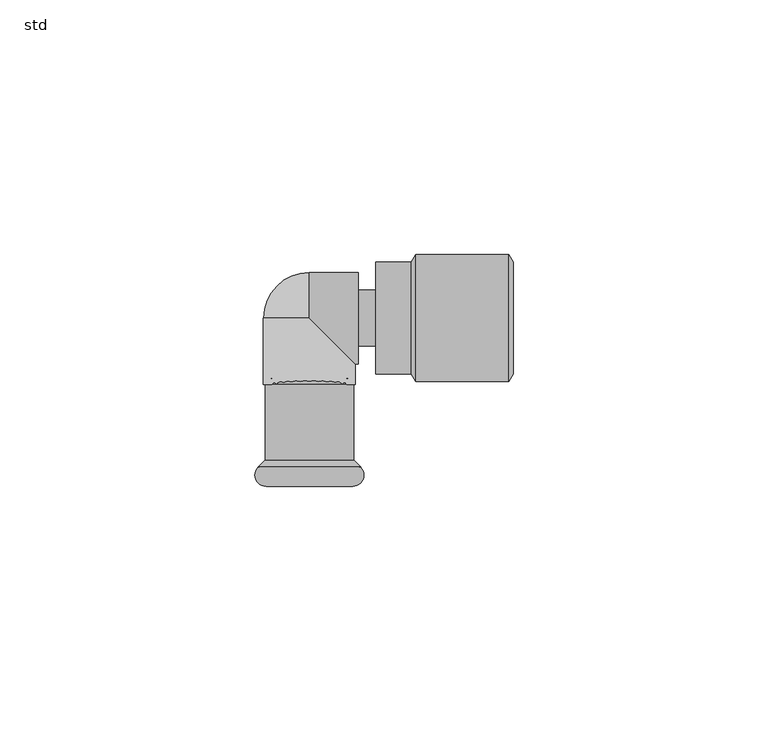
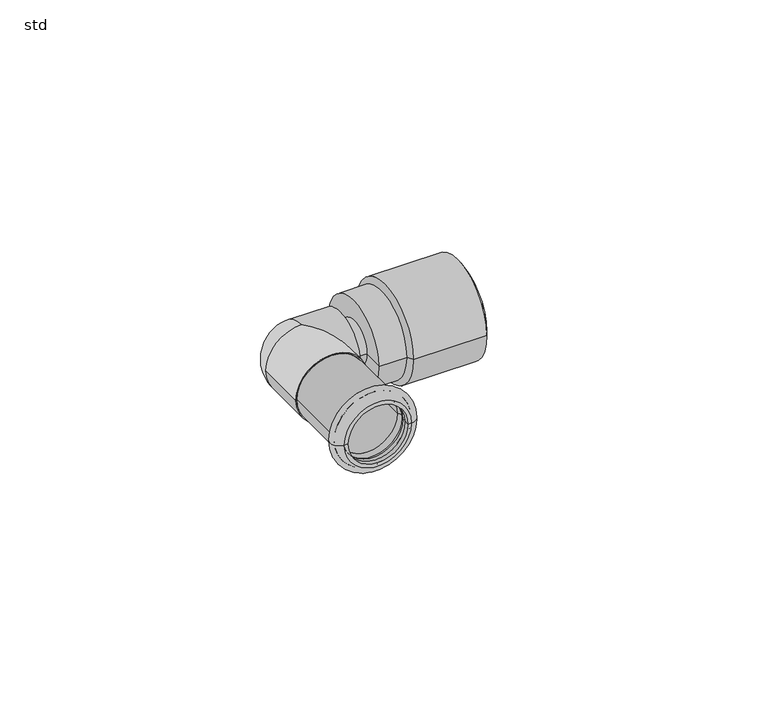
"""IFC4 building model written with IfcOpenShell, lengths in millimetres: pipe fitting geometry, NLRS_53_PIF_UN_mapress koper overgangsknie fixadapter_Geberit : std."""

from ifc_helpers import new_model, si_unit, point, frame, origin, place, context, project, spatial, polyline, circle_curve, ellipse_curve, trimmed, source, transform, mapped, element, save
from ifc_brep_helpers import plane_surface, cylinder_surface, revolved_surface, advanced_brep


def std_c562ad17(model_context):
    return source(origin(), model_context, "Body", "AdvancedBrep", [
        advanced_brep(
        [(9.5, -30.8, 0.0), (-9.5, -30.8, 0.0), (-7.5, -30.8, 0.0), (7.5, -30.8, 0.0)],
        [
            (0, 1, circle_curve(frame((0.0, -30.8, 0.0), z_axis=(0.0, 1.0, 0.0), x_axis=(-1.0000000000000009, 0.0, 0.0)), 9.5)),
            (1, 2, circle_curve(frame((-8.5, -30.8, 0.0), z_axis=(0.0, 0.0, -1.0000000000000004), x_axis=(1.0000000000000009, 0.0, 0.0)), 1.0)),
            (2, 3, circle_curve(frame((0.0, -30.8, 0.0), z_axis=(0.0, -1.0, 0.0), x_axis=(-1.0000000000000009, 0.0, 0.0)), 7.5)),
            (3, 0, circle_curve(frame((8.5, -30.8, 0.0), z_axis=(0.0, 0.0, -1.0000000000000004), x_axis=(-1.0000000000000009, 0.0, 0.0)), 1.0)),
            (1, 0, circle_curve(frame((0.0, -30.8, 0.0), z_axis=(0.0, 1.0, 0.0), x_axis=(1.0000000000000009, 0.0, 0.0)), 9.5)),
            (3, 2, circle_curve(frame((0.0, -30.8, 0.0), z_axis=(0.0, -1.0, 0.0), x_axis=(1.0000000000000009, 0.0, 0.0)), 7.5)),
            (2, 1, circle_curve(frame((-8.5, -30.8, 0.0), z_axis=(0.0, 0.0, -1.0000000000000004), x_axis=(1.0000000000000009, 0.0, 0.0)), 1.0)),
            (0, 3, circle_curve(frame((8.5, -30.8, 0.0), z_axis=(0.0, 0.0, -1.0000000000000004), x_axis=(-1.0000000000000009, 0.0, 0.0)), 1.0)),
        ],
        [
            revolved_surface(trimmed(ellipse_curve(frame((-8.5, -30.8, 0.0), z_axis=(0.0, 0.0, 1.0000000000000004), x_axis=(1.0000000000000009, 0.0, 0.0)), 1.0, 1.0), [point((-7.5, -30.8, 0.0))], [point((-9.5, -30.8, 0.0))], True, "CARTESIAN"), (0.0, -33.0, 0.0), (0.0, -1.0000000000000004, 0.0)),
            revolved_surface(trimmed(ellipse_curve(frame((8.5, -30.8, 0.0), z_axis=(0.0, 0.0, -1.0000000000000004), x_axis=(-1.0000000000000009, 0.0, 0.0)), 1.0, 1.0), [point((7.5, -30.8, 0.0))], [point((9.5, -30.8, 0.0))], True, "CARTESIAN"), (0.0, -33.0, 0.0), (0.0, -1.0000000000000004, 0.0)),
            revolved_surface(trimmed(ellipse_curve(frame((-8.5, -30.8, 0.0), z_axis=(0.0, 0.0, 1.0000000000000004), x_axis=(1.0000000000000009, 0.0, 0.0)), 1.0, 1.0), [point((-9.5, -30.8, 0.0))], [point((-7.5, -30.8, 0.0))], True, "CARTESIAN"), (0.0, -33.0, 0.0), (0.0, -1.0000000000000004, 0.0)),
            revolved_surface(trimmed(ellipse_curve(frame((8.5, -30.8, 0.0), z_axis=(0.0, 0.0, -1.0000000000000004), x_axis=(-1.0000000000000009, 0.0, 0.0)), 1.0, 1.0), [point((9.5, -30.8, 0.0))], [point((7.5, -30.8, 0.0))], True, "CARTESIAN"), (0.0, -33.0, 0.0), (0.0, -1.0000000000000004, 0.0)),
        ],
        [
            (0, [[1, 2, 3, 4]]),
            (1, [[5, -4, 6, -2]]),
            (2, [[-3, 7, -1, 8]]),
            (3, [[-6, -8, -5, -7]]),
        ],
    ),
        advanced_brep(
        [(-8.5, -31.8, 0.0), (8.5, -31.8, 0.0), (9.2071068, -30.0928932, 0.0), (-9.2071068, -30.0928932, 0.0), (-10.0556349, -29.2443651, 0.0), (10.0556349, -29.2443651, 0.0), (8.5, -33.0, 0.0), (-8.5, -33.0, 0.0), (-7.5, -31.8, 0.0), (7.5, -31.8, 0.0), (-7.5, -33.0, 0.0), (7.5, -33.0, 0.0)],
        [
            (0, 1, circle_curve(frame((0.0, -31.8, 0.0), z_axis=(0.0, -1.0, 0.0), x_axis=(1.0000000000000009, 0.0, 0.0)), 8.5)),
            (1, 2, circle_curve(frame((8.5, -30.8, 0.0), z_axis=(0.0, 0.0, 1.0000000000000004), x_axis=(0.0, -1.0000000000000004, 0.0)), 1.0)),
            (2, 3, circle_curve(frame((0.0, -30.0928932, 0.0), z_axis=(0.0, 1.0, 0.0), x_axis=(1.0000000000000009, 0.0, 0.0)), 9.2071068)),
            (3, 0, circle_curve(frame((-8.5, -30.8, 0.0), z_axis=(0.0, 0.0, 1.0000000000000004), x_axis=(0.0, -1.0000000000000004, 0.0)), 1.0)),
            (1, 0, circle_curve(frame((0.0, -31.8, 0.0), z_axis=(0.0, -1.0, 0.0), x_axis=(1.0000000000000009, 0.0, 0.0)), 8.5)),
            (3, 2, circle_curve(frame((0.0, -30.0928932, 0.0), z_axis=(0.0, 1.0, 0.0), x_axis=(1.0000000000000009, 0.0, 0.0)), 9.2071068)),
            (4, 5, circle_curve(frame((0.0, -29.2443651, 0.0), z_axis=(0.0, -1.0, 0.0), x_axis=(1.0000000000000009, 0.0, 0.0)), 10.0556349)),
            (5, 6, circle_curve(frame((8.5, -30.8, 0.0), z_axis=(0.0, 0.0, -1.0000000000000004), x_axis=(0.0, -1.0000000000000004, 0.0)), 2.2)),
            (6, 7, circle_curve(frame((0.0, -33.0, 0.0), z_axis=(0.0, 1.0, 0.0), x_axis=(1.0000000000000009, 0.0, 0.0)), 8.5)),
            (7, 4, circle_curve(frame((-8.5, -30.8, 0.0), z_axis=(0.0, 0.0, -1.0000000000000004), x_axis=(0.0, -1.0000000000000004, 0.0)), 2.2)),
            (5, 4, circle_curve(frame((0.0, -29.2443651, 0.0), z_axis=(0.0, -1.0, 0.0), x_axis=(1.0000000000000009, 0.0, 0.0)), 10.0556349)),
            (7, 6, circle_curve(frame((0.0, -33.0, 0.0), z_axis=(0.0, 1.0, 0.0), x_axis=(1.0000000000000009, 0.0, 0.0)), 8.5)),
            (2, 5),
            (4, 3),
            (8, 9, circle_curve(frame((0.0, -31.8, 0.0), z_axis=(0.0, -1.0, 0.0), x_axis=(1.0000000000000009, 0.0, 0.0)), 7.5)),
            (9, 1),
            (0, 8),
            (9, 8, circle_curve(frame((0.0, -31.8, 0.0), z_axis=(0.0, -1.0, 0.0), x_axis=(1.0000000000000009, 0.0, 0.0)), 7.5)),
            (10, 11, circle_curve(frame((0.0, -33.0, 0.0), z_axis=(0.0, -1.0, 0.0), x_axis=(1.0000000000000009, 0.0, 0.0)), 7.5)),
            (11, 9),
            (8, 10),
            (11, 10, circle_curve(frame((0.0, -33.0, 0.0), z_axis=(0.0, -1.0, 0.0), x_axis=(1.0000000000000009, 0.0, 0.0)), 7.5)),
            (6, 11),
            (10, 7),
        ],
        [
            revolved_surface(trimmed(ellipse_curve(frame((8.5, -30.8, 0.0), z_axis=(0.0, 0.0, -1.0000000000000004), x_axis=(0.0, -1.0000000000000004, 0.0)), 1.0, 1.0), [point((9.2071068, -30.0928932, 0.0))], [point((8.5, -31.8, 0.0))], True, "CARTESIAN"), (0.0, -2033.0, 0.0), (0.0, 1.0000000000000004, 0.0)),
            revolved_surface(trimmed(ellipse_curve(frame((8.5, -30.8, 0.0), z_axis=(0.0, 0.0, 1.0000000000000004), x_axis=(0.0, -1.0000000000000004, 0.0)), 2.2, 2.2), [point((8.5, -33.0, 0.0))], [point((10.0556349, -29.2443651, 0.0))], True, "CARTESIAN"), (0.0, -2033.0, 0.0), (0.0, 1.0000000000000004, 0.0)),
            revolved_surface(polyline([(10.0556349, -29.2443651, 0.0), (9.2071068, -30.0928932, 0.0)]), (0.0, -2033.0, 0.0), (0.0, 1.0000000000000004, 0.0)),
            plane_surface(frame((0.0, -31.8, 0.0), z_axis=(0.0, 1.0, 0.0), x_axis=(1.0, 0.0, 0.0))),
            revolved_surface(polyline([(7.500000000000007, -31.799999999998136, 0.0), (7.500000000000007, -32.99999999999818, 0.0)]), (0.0, -2033.0, 0.0), (0.0, 1.0000000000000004, 0.0)),
            plane_surface(frame((0.0, -33.0, 0.0), z_axis=(0.0, -1.0, 0.0), x_axis=(1.0, 0.0, 0.0))),
        ],
        [
            (0, [[1, 2, 3, 4]]),
            (0, [[5, -4, 6, -2]]),
            (1, [[7, 8, 9, 10]]),
            (1, [[11, -10, 12, -8]]),
            (2, [[-3, 13, -7, 14]]),
            (2, [[-6, -14, -11, -13]]),
            (3, [[15, 16, -1, 17]]),
            (3, [[18, -17, -5, -16]]),
            (4, [[19, 20, -15, 21]]),
            (4, [[22, -21, -18, -20]]),
            (5, [[-9, 23, -19, 24]]),
            (5, [[-12, -24, -22, -23]]),
        ],
    ),
        advanced_brep(
        [(-8.7, -13.0, 0.0), (8.7, -13.0, 0.0), (8.7, -27.8887302, 0.0), (-8.7, -27.8887302, 0.0), (-7.5, -11.8, 0.0), (7.5, -11.8, 0.0), (-7.5, -28.3857864, 0.0), (7.5, -28.3857864, 0.0), (-9.2071068, -30.0928932, 0.0), (9.2071068, -30.0928932, 0.0), (-10.0556349, -29.2443651, 0.0), (10.0556349, -29.2443651, 0.0)],
        [
            (0, 1, circle_curve(frame((0.0, -13.0, 0.0), z_axis=(0.0, -1.0, 0.0), x_axis=(1.0000000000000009, 0.0, 0.0)), 8.7)),
            (1, 2),
            (2, 3, circle_curve(frame((0.0, -27.8887302, 0.0), z_axis=(0.0, 1.0, 0.0), x_axis=(1.0000000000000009, 0.0, 0.0)), 8.7)),
            (3, 0),
            (1, 0, circle_curve(frame((0.0, -13.0, 0.0), z_axis=(0.0, -1.0, 0.0), x_axis=(1.0000000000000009, 0.0, 0.0)), 8.7)),
            (3, 2, circle_curve(frame((0.0, -27.8887302, 0.0), z_axis=(0.0, 1.0, 0.0), x_axis=(1.0000000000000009, 0.0, 0.0)), 8.7)),
            (4, 5, circle_curve(frame((0.0, -11.8, 0.0), z_axis=(0.0, -1.0, 0.0), x_axis=(1.0000000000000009, 0.0, 0.0)), 7.5)),
            (5, 1, circle_curve(frame((7.5, -13.0, 0.0), z_axis=(0.0, 0.0, -1.0000000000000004), x_axis=(0.0, -1.0000000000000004, 0.0)), 1.2)),
            (0, 4, circle_curve(frame((-7.5, -13.0, 0.0), z_axis=(0.0, 0.0, -1.0000000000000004), x_axis=(0.0, -1.0000000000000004, 0.0)), 1.2)),
            (5, 4, circle_curve(frame((0.0, -11.8, 0.0), z_axis=(0.0, -1.0, 0.0), x_axis=(1.0000000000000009, 0.0, 0.0)), 7.5)),
            (6, 7, circle_curve(frame((0.0, -28.3857864, 0.0), z_axis=(0.0, -1.0, 0.0), x_axis=(1.0000000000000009, 0.0, 0.0)), 7.5)),
            (7, 5),
            (4, 6),
            (7, 6, circle_curve(frame((0.0, -28.3857864, 0.0), z_axis=(0.0, -1.0, 0.0), x_axis=(1.0000000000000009, 0.0, 0.0)), 7.5)),
            (8, 9, circle_curve(frame((0.0, -30.0928932, 0.0), z_axis=(0.0, -1.0, 0.0), x_axis=(1.0000000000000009, 0.0, 0.0)), 9.2071068)),
            (9, 7),
            (6, 8),
            (9, 8, circle_curve(frame((0.0, -30.0928932, 0.0), z_axis=(0.0, -1.0, 0.0), x_axis=(1.0000000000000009, 0.0, 0.0)), 9.2071068)),
            (10, 11, circle_curve(frame((0.0, -29.2443651, 0.0), z_axis=(0.0, -1.0, 0.0), x_axis=(1.0000000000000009, 0.0, 0.0)), 10.0556349)),
            (11, 9),
            (8, 10),
            (11, 10, circle_curve(frame((0.0, -29.2443651, 0.0), z_axis=(0.0, -1.0, 0.0), x_axis=(1.0000000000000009, 0.0, 0.0)), 10.0556349)),
            (2, 11),
            (10, 3),
        ],
        [
            cylinder_surface(frame((0.0, -33.0, 0.0), z_axis=(0.0, 1.0000000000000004, 0.0), x_axis=(1.0000000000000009, 0.0, 0.0)), 8.7),
            revolved_surface(trimmed(ellipse_curve(frame((7.5, -13.0, 0.0), z_axis=(0.0, 0.0, 1.0000000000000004), x_axis=(0.0, -1.0000000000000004, 0.0)), 1.2, 1.2), [point((8.7, -13.0, 0.0))], [point((7.5, -11.8, 0.0))], True, "CARTESIAN"), (0.0, -33.0, 0.0), (0.0, 1.0000000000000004, 0.0)),
            revolved_surface(polyline([(7.500000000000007, -11.79999999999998, 0.0), (7.500000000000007, -28.385786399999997, 0.0)]), (0.0, -33.0, 0.0), (0.0, 1.0000000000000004, 0.0)),
            revolved_surface(polyline([(7.5, -28.3857864, 0.0), (9.2071068, -30.0928932, 0.0)]), (0.0, -33.0, 0.0), (0.0, 1.0000000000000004, 0.0)),
            revolved_surface(polyline([(9.2071068, -30.0928932, 0.0), (10.0556349, -29.2443651, 0.0)]), (0.0, -33.0, 0.0), (0.0, 1.0000000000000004, 0.0)),
            revolved_surface(polyline([(10.0556349, -29.2443651, 0.0), (8.7, -27.8887302, 0.0)]), (0.0, -33.0, 0.0), (0.0, 1.0000000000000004, 0.0)),
        ],
        [
            (0, [[1, 2, 3, 4]]),
            (0, [[5, -4, 6, -2]]),
            (1, [[7, 8, -1, 9]]),
            (1, [[10, -9, -5, -8]]),
            (2, [[11, 12, -7, 13]]),
            (2, [[14, -13, -10, -12]]),
            (3, [[15, 16, -11, 17]]),
            (3, [[18, -17, -14, -16]]),
            (4, [[19, 20, -15, 21]]),
            (4, [[22, -21, -18, -20]]),
            (5, [[-3, 23, -19, 24]]),
            (5, [[-6, -24, -22, -23]]),
        ],
    ),
        advanced_brep(
        [(9.6, 0.0, 0.0), (9.6, 5.5, 0.0), (9.6, -5.5, 0.0), (16.4, -5.5, 0.0), (16.4, 5.5, 0.0), (16.4, 0.0, 0.0)],
        [
            (0, 1),
            (1, 2, circle_curve(frame((9.6, 0.0, 0.0), z_axis=(-1.0, 0.0, 0.0), x_axis=(0.0, 1.0, 0.0)), 5.5)),
            (2, 0),
            (2, 1, circle_curve(frame((9.6, 0.0, 0.0), z_axis=(-1.0, 0.0, 0.0), x_axis=(0.0, 1.0, 0.0)), 5.5)),
            (3, 4, circle_curve(frame((16.4, 0.0, 0.0), z_axis=(1.0, 0.0, 0.0), x_axis=(0.0, 1.0, 0.0)), 5.5)),
            (4, 5),
            (5, 3),
            (4, 3, circle_curve(frame((16.4, 0.0, 0.0), z_axis=(1.0, 0.0, 0.0), x_axis=(0.0, 1.0, 0.0)), 5.5)),
            (1, 4),
            (3, 2),
        ],
        [
            plane_surface(frame((9.6, 0.0, 0.0), z_axis=(-1.0, 0.0, 0.0), x_axis=(0.0, 1.0, 0.0))),
            plane_surface(frame((16.4, 0.0, 0.0), z_axis=(1.0, 0.0, 0.0), x_axis=(0.0, 1.0, 0.0))),
            cylinder_surface(frame((2040.0, 0.0, 0.0), z_axis=(-1.0, 0.0, 0.0), x_axis=(0.0, 1.0, 0.0)), 5.5),
        ],
        [
            (0, [[1, 2, 3]]),
            (0, [[-3, 4, -1]]),
            (1, [[5, 6, 7]]),
            (1, [[8, -7, -6]]),
            (2, [[-2, 9, -5, 10]]),
            (2, [[-4, -10, -8, -9]]),
        ],
    ),
        advanced_brep(
        [(39.1517647, -12.4691866, 0.0), (39.1517647, 12.4691866, 0.0), (40.0, 11.0, 0.0), (40.0, -11.0, 0.0), (20.8657576, -12.4691866, 0.0), (20.8657576, 12.4691866, 0.0), (20.0, -11.0, 0.0), (20.0, 11.0, 0.0), (13.0, -11.0, 0.0), (13.0, 11.0, 0.0), (13.0, 0.0, 0.0), (40.0, 0.0, 0.0)],
        [
            (0, 1, circle_curve(frame((39.1517647, 0.0, 0.0), z_axis=(1.0, 0.0, 0.0), x_axis=(0.0, 1.0, 0.0)), 12.4691866)),
            (1, 2),
            (2, 3, circle_curve(frame((40.0, 0.0, 0.0), z_axis=(-1.0, 0.0, 0.0), x_axis=(0.0, 1.0, 0.0)), 11.0)),
            (3, 0),
            (1, 0, circle_curve(frame((39.1517647, 0.0, 0.0), z_axis=(1.0, 0.0, 0.0), x_axis=(0.0, 1.0, 0.0)), 12.4691866)),
            (3, 2, circle_curve(frame((40.0, 0.0, 0.0), z_axis=(-1.0, 0.0, 0.0), x_axis=(0.0, 1.0, 0.0)), 11.0)),
            (4, 5, circle_curve(frame((20.8657576, 0.0, 0.0), z_axis=(1.0, 0.0, 0.0), x_axis=(0.0, 1.0, 0.0)), 12.4691866)),
            (5, 1),
            (0, 4),
            (5, 4, circle_curve(frame((20.8657576, 0.0, 0.0), z_axis=(1.0, 0.0, 0.0), x_axis=(0.0, 1.0, 0.0)), 12.4691866)),
            (6, 7, circle_curve(frame((20.0, 0.0, 0.0), z_axis=(1.0, 0.0, 0.0), x_axis=(0.0, 1.0, 0.0)), 11.0)),
            (7, 5),
            (4, 6),
            (7, 6, circle_curve(frame((20.0, 0.0, 0.0), z_axis=(1.0, 0.0, 0.0), x_axis=(0.0, 1.0, 0.0)), 11.0)),
            (8, 9, circle_curve(frame((13.0, 0.0, 0.0), z_axis=(1.0, 0.0, 0.0), x_axis=(0.0, 1.0, 0.0)), 11.0)),
            (9, 7),
            (6, 8),
            (9, 8, circle_curve(frame((13.0, 0.0, 0.0), z_axis=(1.0, 0.0, 0.0), x_axis=(0.0, 1.0, 0.0)), 11.0)),
            (10, 9),
            (8, 10),
            (2, 11),
            (11, 3),
        ],
        [
            revolved_surface(polyline([(40.0, 11.0, 0.0), (39.1517647, 12.4691866, 0.0)]), (2040.0, 0.0, 0.0), (-1.0, 0.0, 0.0)),
            cylinder_surface(frame((2040.0, 0.0, 0.0), z_axis=(-1.0, 0.0, 0.0), x_axis=(0.0, 1.0, 0.0)), 12.4691866),
            revolved_surface(polyline([(20.8657576, 12.4691866, 0.0), (20.0, 11.0, 0.0)]), (2040.0, 0.0, 0.0), (-1.0, 0.0, 0.0)),
            cylinder_surface(frame((2040.0, 0.0, 0.0), z_axis=(-1.0, 0.0, 0.0), x_axis=(0.0, 1.0, 0.0)), 11.0),
            plane_surface(frame((13.0, 0.0, 0.0), z_axis=(-1.0, 0.0, 0.0), x_axis=(0.0, 1.0, 0.0))),
            plane_surface(frame((40.0, 0.0, 0.0), z_axis=(1.0, 0.0, 0.0), x_axis=(0.0, 1.0, 0.0))),
        ],
        [
            (0, [[1, 2, 3, 4]]),
            (0, [[5, -4, 6, -2]]),
            (1, [[7, 8, -1, 9]]),
            (1, [[10, -9, -5, -8]]),
            (2, [[11, 12, -7, 13]]),
            (2, [[14, -13, -10, -12]]),
            (3, [[15, 16, -11, 17]]),
            (3, [[18, -17, -14, -16]]),
            (4, [[19, -15, 20]]),
            (4, [[-20, -18, -19]]),
            (5, [[-3, 21, 22]]),
            (5, [[-6, -22, -21]]),
        ],
    ),
        advanced_brep(
        [(9.6, -9.0, 0.0), (9.6, 9.0, 0.0), (0.0, 9.0, 0.0), (0.0, 0.0, 9.0), (9.0, -9.0, 0.0), (0.0, 0.0, -9.0), (9.0, -13.0, 0.0), (-9.0, -13.0, 0.0), (-9.0, 0.0, 0.0)],
        [
            (0, 1, circle_curve(frame((9.6, 0.0, 0.0), z_axis=(1.0, 0.0, 0.0), x_axis=(0.0, 1.0, 0.0)), 9.0)),
            (1, 0, circle_curve(frame((9.6, 0.0, 0.0), z_axis=(1.0, 0.0, 0.0), x_axis=(0.0, 1.0, 0.0)), 9.0)),
            (1, 2),
            (2, 3, circle_curve(frame((0.0, 0.0, 0.0), z_axis=(1.0, 0.0, 0.0), x_axis=(0.0, 1.0, 0.0)), 9.0)),
            (3, 4, ellipse_curve(frame((0.0, 0.0, 0.0), z_axis=(0.7071067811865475, 0.7071067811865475, 0.0), x_axis=(-0.7071067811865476, 0.7071067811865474, 0.0)), 12.7279221, 9.0)),
            (4, 0),
            (4, 5, ellipse_curve(frame((0.0, 0.0, 0.0), z_axis=(0.7071067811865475, 0.7071067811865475, 0.0), x_axis=(-0.7071067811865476, 0.7071067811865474, 0.0)), 12.7279221, 9.0)),
            (5, 2, circle_curve(frame((0.0, 0.0, 0.0), z_axis=(1.0, 0.0, 0.0), x_axis=(0.0, 1.0, 0.0)), 9.0)),
            (6, 7, circle_curve(frame((0.0, -13.0, 0.0), z_axis=(0.0, -1.0, 0.0), x_axis=(-1.0, 0.0, 0.0)), 9.0)),
            (7, 6, circle_curve(frame((0.0, -13.0, 0.0), z_axis=(0.0, -1.0, 0.0), x_axis=(-1.0, 0.0, 0.0)), 9.0)),
            (6, 4),
            (3, 8, circle_curve(frame((0.0, 0.0, 0.0), z_axis=(0.0, -1.0, 0.0), x_axis=(-1.0, 0.0, 0.0)), 9.0)),
            (8, 7),
            (8, 5, circle_curve(frame((0.0, 0.0, 0.0), z_axis=(0.0, -1.0, 0.0), x_axis=(-1.0, 0.0, 0.0)), 9.0)),
        ],
        [
            plane_surface(frame((9.6, 0.0, 0.0), z_axis=(1.0, 0.0, 0.0), x_axis=(0.0, 0.0, 1.0))),
            cylinder_surface(frame((0.0, 0.0, 0.0), z_axis=(-1.0, 0.0, 0.0), x_axis=(0.0, 1.0, 0.0)), 9.0),
            plane_surface(frame((0.0, -13.0, 0.0), z_axis=(0.0, -1.0, 0.0), x_axis=(0.0, 0.0, 1.0))),
            cylinder_surface(frame((0.0, -13.0, 0.0), z_axis=(0.0, -1.0, 0.0), x_axis=(-1.0, 0.0, 0.0)), 9.0),
            revolved_surface(trimmed(ellipse_curve(frame((0.0, 0.0, 0.0), z_axis=(0.0, -1.0, 0.0), x_axis=(1.0, 0.0, 0.0)), 9.0, 9.0), [point((0.0, 0.0, 9.0))], [point((0.0, 0.0, -9.0))], True, "CARTESIAN"), (0.0, 0.0, 2214.3150031), (0.0, 0.0, -1.0)),
        ],
        [
            (0, [[1, 2]]),
            (1, [[-2, 3, 4, 5, 6]]),
            (1, [[-1, -6, 7, 8, -3]]),
            (2, [[9, 10]]),
            (3, [[-9, 11, -5, 12, 13]]),
            (3, [[-10, -13, 14, -7, -11]]),
            (4, [[-4, -8, -14, -12]]),
        ],
    ),
    ])


if __name__ == "__main__":
    model = new_model("IFC4")
    model_context = context("Model", 3, world=origin())
    ifc_project = project(units=[si_unit("LENGTHUNIT", "METRE", prefix="MILLI")], contexts=[model_context])
    site = spatial("IfcSite", under=ifc_project)
    building = spatial("IfcBuilding", under=site)
    placement = place(None, origin())
    std_shape = std_c562ad17(model_context)
    element("IfcPipeFitting", 1, ObjectType="NLRS_53_PIF_UN_mapress koper overgangsknie fixadapter_Geberit : std", at=placement, inside=building, context=model_context, shape_type="MappedRepresentation", body=[
        mapped(std_shape, transform((0.0, 0.0, 0.0), x_axis=(1.0, 0.0, 0.0), y_axis=(0.0, 1.0, 0.0), z_axis=(0.0, 0.0, 1.0))),
    ])
    save(model, "model.ifc")
